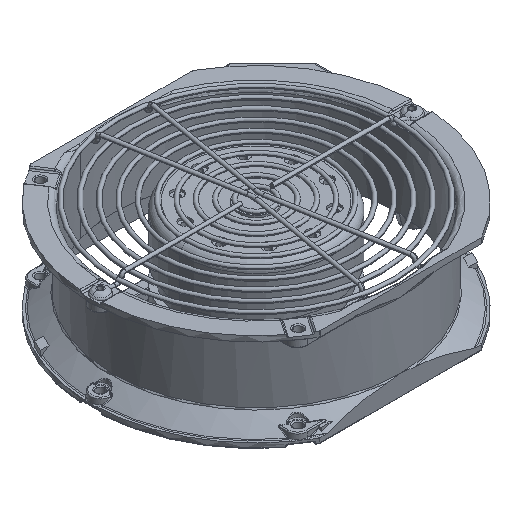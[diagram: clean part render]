
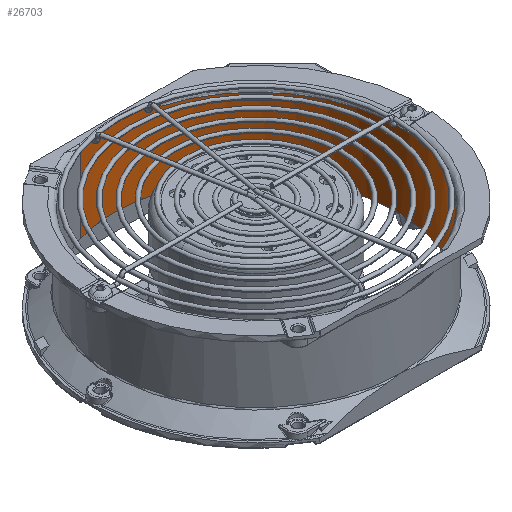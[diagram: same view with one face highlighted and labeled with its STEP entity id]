
A CAD part, isometric view. The second image highlights one B-rep face of the part: STEP entity #26703.
In plain terms, the highlighted cylindrical face has radius 73.609 mm (diameter 147.218 mm), a partial arc.
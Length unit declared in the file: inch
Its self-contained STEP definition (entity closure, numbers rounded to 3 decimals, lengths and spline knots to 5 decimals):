
#506=CARTESIAN_POINT('',(0.,0.,0.35606));
#507=DIRECTION('',(0.,0.,-1.));
#508=DIRECTION('',(1.,-0.02,0.));
#509=AXIS2_PLACEMENT_3D('',#506,#507,#508);
#614=CARTESIAN_POINT('',(0.,0.,0.35606));
#615=DIRECTION('',(0.,0.,-1.));
#616=DIRECTION('',(0.,1.,0.));
#617=AXIS2_PLACEMENT_3D('',#614,#615,#616);
#7761=DIRECTION('',(0.,0.,1.));
#7762=VECTOR('',#7761,1.52894);
#7763=CARTESIAN_POINT('',(-0.8125,-2.78177,0.35606));
#7764=LINE('',#7763,#7762);
#7776=DIRECTION('',(0.,0.,1.));
#7777=VECTOR('',#7776,1.52894);
#7778=CARTESIAN_POINT('',(-0.8125,2.78177,0.35606));
#7779=LINE('',#7778,#7777);
#8894=CARTESIAN_POINT('',(0.,0.,0.35573));
#8895=DIRECTION('',(0.,0.,-1.));
#8896=DIRECTION('',(1.,0.02,0.));
#8897=AXIS2_PLACEMENT_3D('',#8894,#8895,#8896);
#8902=CARTESIAN_POINT('',(0.,0.,0.35606));
#8903=DIRECTION('',(0.,0.,1.));
#8904=DIRECTION('',(0.,1.,0.));
#8905=AXIS2_PLACEMENT_3D('',#8902,#8903,#8904);
#8910=CARTESIAN_POINT('',(0.,0.,1.98));
#8911=DIRECTION('',(0.,0.,-1.));
#8912=DIRECTION('',(-0.28,0.96,0.));
#8913=AXIS2_PLACEMENT_3D('',#8910,#8911,#8912);
#8918=CARTESIAN_POINT('',(0.,0.,1.885));
#8919=DIRECTION('',(0.,0.,-1.));
#8920=DIRECTION('',(0.28,0.96,0.));
#8921=AXIS2_PLACEMENT_3D('',#8918,#8919,#8920);
#8926=CARTESIAN_POINT('',(0.,0.,1.98));
#8927=DIRECTION('',(0.,0.,-1.));
#8928=DIRECTION('',(0.28,-0.96,0.));
#8929=AXIS2_PLACEMENT_3D('',#8926,#8927,#8928);
#8934=CARTESIAN_POINT('',(0.,0.,0.35606));
#8935=DIRECTION('',(0.,0.,1.));
#8936=DIRECTION('',(-0.28,-0.96,0.));
#8937=AXIS2_PLACEMENT_3D('',#8934,#8935,#8936);
#8942=CARTESIAN_POINT('',(2.898,-0.00116,
0.35548));
#8943=CARTESIAN_POINT('',(2.898,-0.00696,
0.35549));
#8944=CARTESIAN_POINT('',(2.89796,-0.01886,
0.35559));
#8945=CARTESIAN_POINT('',(2.89778,-0.03759,
0.35589));
#8946=CARTESIAN_POINT('',(2.89756,-0.05086,
0.35606));
#8947=CARTESIAN_POINT('',(2.89743,-0.05767,
0.35606));
#8959=DIRECTION('',(0.,0.,1.));
#8960=VECTOR('',#8959,0.095);
#8961=CARTESIAN_POINT('',(-0.8125,2.78177,1.885));
#8962=LINE('',#8961,#8960);
#8973=DIRECTION('',(0.,0.,1.));
#8974=VECTOR('',#8973,0.095);
#8975=CARTESIAN_POINT('',(0.8125,2.78177,1.885));
#8976=LINE('',#8975,#8974);
#9963=DIRECTION('',(0.,0.,1.));
#9964=VECTOR('',#9963,0.095);
#9965=CARTESIAN_POINT('',(-0.8125,-2.78177,1.885));
#9966=LINE('',#9965,#9964);
#9977=DIRECTION('',(0.,0.,1.));
#9978=VECTOR('',#9977,0.095);
#9979=CARTESIAN_POINT('',(0.8125,-2.78177,1.885));
#9980=LINE('',#9979,#9978);
#15708=CARTESIAN_POINT('',(-0.8125,-2.78177,1.885));
#15709=CARTESIAN_POINT('',(-0.8125,2.78177,1.885));
#15710=VERTEX_POINT('',#15708);
#15711=VERTEX_POINT('',#15709);
#15712=CARTESIAN_POINT('',(0.8125,2.78177,1.885));
#15713=CARTESIAN_POINT('',(0.8125,-2.78177,1.885));
#15714=VERTEX_POINT('',#15712);
#15715=VERTEX_POINT('',#15713);
#15720=CARTESIAN_POINT('',(-0.8125,2.78177,1.98));
#15722=VERTEX_POINT('',#15720);
#15726=CARTESIAN_POINT('',(0.8125,2.78177,1.98));
#15727=VERTEX_POINT('',#15726);
#15733=CARTESIAN_POINT('',(-0.8125,-2.78177,1.98));
#15735=VERTEX_POINT('',#15733);
#15740=CARTESIAN_POINT('',(0.8125,-2.78177,1.98));
#15741=VERTEX_POINT('',#15740);
#15892=CARTESIAN_POINT('',(-0.8125,2.78177,0.35606));
#15893=VERTEX_POINT('',#15892);
#15894=CARTESIAN_POINT('',(-0.8125,-2.78177,0.35606));
#15895=VERTEX_POINT('',#15894);
#15906=CARTESIAN_POINT('',(0.,-2.898,0.35606));
#15907=VERTEX_POINT('',#15906);
#15918=CARTESIAN_POINT('',(0.,2.898,0.35606));
#15919=VERTEX_POINT('',#15918);
#15947=CARTESIAN_POINT('',(2.89743,0.05767,
0.35573));
#15948=CARTESIAN_POINT('',(2.898,-0.00116,
0.35573));
#15949=VERTEX_POINT('',#15947);
#15950=VERTEX_POINT('',#15948);
#15951=VERTEX_POINT('',#8947);
#26673=CARTESIAN_POINT('',(0.,0.,2.01));
#26674=DIRECTION('',(0.,0.,1.));
#26675=DIRECTION('',(-1.,0.,0.));
#26676=AXIS2_PLACEMENT_3D('',#26673,#26674,#26675);
#26677=CYLINDRICAL_SURFACE('',#26676,2.898);
#26678=ORIENTED_EDGE('',*,*,#23243,.F.);
#26679=ORIENTED_EDGE('',*,*,#17657,.F.);
#26680=ORIENTED_EDGE('',*,*,#18300,.T.);
#26681=ORIENTED_EDGE('',*,*,#24471,.T.);
#26683=ORIENTED_EDGE('',*,*,#26682,.T.);
#26685=ORIENTED_EDGE('',*,*,#26684,.T.);
#26687=ORIENTED_EDGE('',*,*,#26686,.F.);
#26689=ORIENTED_EDGE('',*,*,#26688,.T.);
#26691=ORIENTED_EDGE('',*,*,#26690,.T.);
#26693=ORIENTED_EDGE('',*,*,#26692,.T.);
#26695=ORIENTED_EDGE('',*,*,#26694,.F.);
#26696=ORIENTED_EDGE('',*,*,#24467,.F.);
#26697=ORIENTED_EDGE('',*,*,#18379,.T.);
#26698=ORIENTED_EDGE('',*,*,#17620,.F.);
#26700=ORIENTED_EDGE('',*,*,#26699,.F.);
#26701=EDGE_LOOP('',(#26678,#26679,#26680,#26681,#26683,#26685,#26687,#26689,
#26691,#26693,#26695,#26696,#26697,#26698,#26700));
#26702=FACE_OUTER_BOUND('',#26701,.F.);
#510=CIRCLE('',#509,2.898);
#618=CIRCLE('',#617,2.898);
#8898=CIRCLE('',#8897,2.898);
#8906=CIRCLE('',#8905,2.898);
#8914=CIRCLE('',#8913,2.898);
#8922=CIRCLE('',#8921,2.898);
#8930=CIRCLE('',#8929,2.898);
#8938=CIRCLE('',#8937,2.898);
#8948=B_SPLINE_CURVE_WITH_KNOTS('',3,(#8942,#8943,#8944,#8945,#8946,#8947),
.UNSPECIFIED.,.F.,.F.,(4,1,1,4),(0.,0.33333,0.66667,1.),
.UNSPECIFIED.);
#17620=EDGE_CURVE('',#15951,#15907,#510,.T.);
#17657=EDGE_CURVE('',#15919,#15949,#618,.T.);
#18300=EDGE_CURVE('',#15919,#15893,#8906,.T.);
#18379=EDGE_CURVE('',#15895,#15907,#8938,.T.);
#23243=EDGE_CURVE('',#15949,#15950,#8898,.T.);
#24467=EDGE_CURVE('',#15895,#15710,#7764,.T.);
#24471=EDGE_CURVE('',#15893,#15711,#7779,.T.);
#26682=EDGE_CURVE('',#15711,#15722,#8962,.T.);
#26684=EDGE_CURVE('',#15722,#15727,#8914,.T.);
#26686=EDGE_CURVE('',#15714,#15727,#8976,.T.);
#26688=EDGE_CURVE('',#15714,#15715,#8922,.T.);
#26690=EDGE_CURVE('',#15715,#15741,#9980,.T.);
#26692=EDGE_CURVE('',#15741,#15735,#8930,.T.);
#26694=EDGE_CURVE('',#15710,#15735,#9966,.T.);
#26699=EDGE_CURVE('',#15950,#15951,#8948,.T.);
#26703=ADVANCED_FACE('',(#26702),#26677,.F.);
